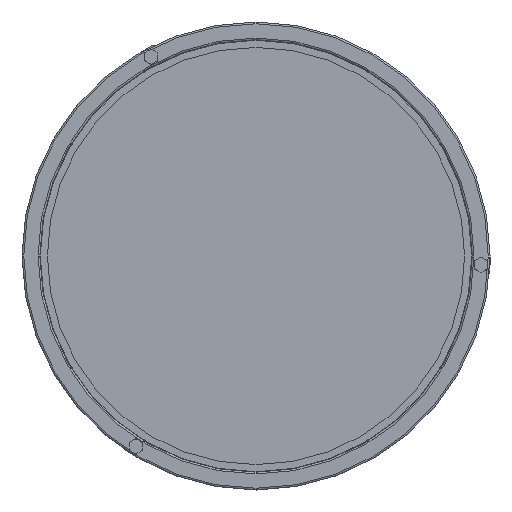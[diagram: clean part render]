
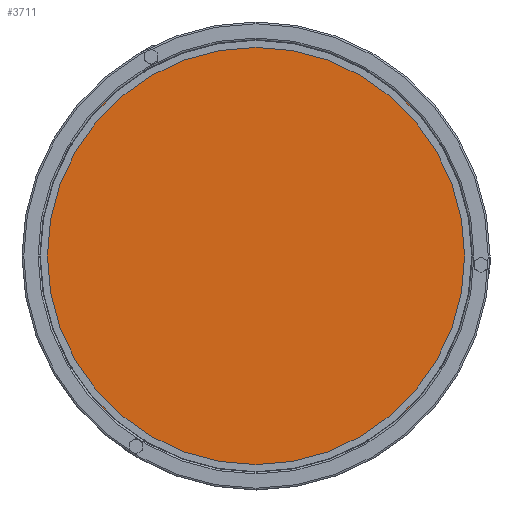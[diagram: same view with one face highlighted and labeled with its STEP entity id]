
A CAD part, front view. The second image highlights one B-rep face of the part: STEP entity #3711.
In plain terms, the highlighted planar face has unit normal (0, -1, 0).
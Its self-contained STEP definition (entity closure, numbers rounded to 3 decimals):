
#15 = DIRECTION ( 'NONE',  ( 0., 0., 1. ) ) ;
#21 = VERTEX_POINT ( 'NONE', #307 ) ;
#63 = CARTESIAN_POINT ( 'NONE',  ( 0., 0., 0. ) ) ;
#185 = DIRECTION ( 'NONE',  ( 0., 0., 1. ) ) ;
#307 = CARTESIAN_POINT ( 'NONE',  ( 0., 0., 242.25 ) ) ;
#617 = FACE_OUTER_BOUND ( 'NONE', #6704, .T. ) ;
#1333 = CIRCLE ( 'NONE', #9023, 242.25 ) ;
#1539 = DIRECTION ( 'NONE',  ( 0., 1., 0. ) ) ;
#2817 = AXIS2_PLACEMENT_3D ( 'NONE', #63, #6464, #15 ) ;
#3015 = CARTESIAN_POINT ( 'NONE',  ( 0., 0., 0. ) ) ;
#3411 = EDGE_CURVE ( 'NONE', #21, #4316, #6581, .T. ) ;
#3711 = ADVANCED_FACE ( 'NONE', ( #617 ), #5856, .F. ) ;
#4316 = VERTEX_POINT ( 'NONE', #6579 ) ;
#4615 = ORIENTED_EDGE ( 'NONE', *, *, #3411, .F. ) ;
#4621 = AXIS2_PLACEMENT_3D ( 'NONE', #8427, #1539, #8008 ) ;
#4889 = ORIENTED_EDGE ( 'NONE', *, *, #5244, .F. ) ;
#5244 = EDGE_CURVE ( 'NONE', #4316, #21, #1333, .T. ) ;
#5856 = PLANE ( 'NONE',  #2817 ) ;
#5885 = DIRECTION ( 'NONE',  ( 0., 1., 0. ) ) ;
#6464 = DIRECTION ( 'NONE',  ( 0., 1., 0. ) ) ;
#6579 = CARTESIAN_POINT ( 'NONE',  ( 0., 0., -242.25 ) ) ;
#6581 = CIRCLE ( 'NONE', #4621, 242.25 ) ;
#6704 = EDGE_LOOP ( 'NONE', ( #4889, #4615 ) ) ;
#8008 = DIRECTION ( 'NONE',  ( 0., 0., 1. ) ) ;
#8427 = CARTESIAN_POINT ( 'NONE',  ( 0., 0., 0. ) ) ;
#9023 = AXIS2_PLACEMENT_3D ( 'NONE', #3015, #5885, #185 ) ;
